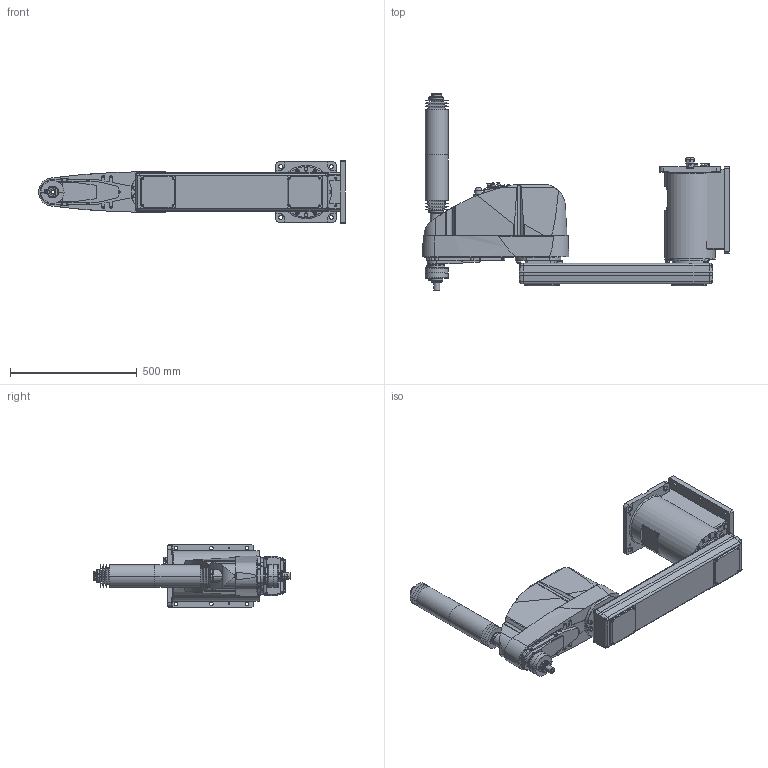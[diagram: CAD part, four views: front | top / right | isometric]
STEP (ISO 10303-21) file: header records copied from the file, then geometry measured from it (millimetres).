
FILE_DESCRIPTION( ( '' ), '1' );
FILE_NAME( '//expscmdclustefs.cadenas.external/client_exchange/iodir/jobs/output/wkb51490698_no0/STEP/G20_A04CW_2_03.stp', '2012-11-22T09:00:13', ( '' ), ( '' ), ' ', ' ', ' ' );
FILE_SCHEMA( ( 'CONFIG_CONTROL_DESIGN' ) );
Length unit declared in the file: millimetre
Products named in the file (8): 1; 2; 3; 4; 5; 6; 7; 8
Bounding box: 1210.5 x 774 x 250 mm (x, y, z)
Volume: 46685631.2 mm3; surface area: 1905573.4 mm2
Topology: 8 solids, 8 shells, 2083 faces, 5049 edges, 3273 vertices
Faces by surface type: plane 1104, cylinder 705, cone 244, torus 29, sphere 1
Entity records: 63294 total; most frequent: CARTESIAN_POINT 12676, DIRECTION 10850, ORIENTED_EDGE 10082, EDGE_CURVE 5041, AXIS2_PLACEMENT_3D 3873, VERTEX_POINT 3273, LINE 3104, VECTOR 3104
